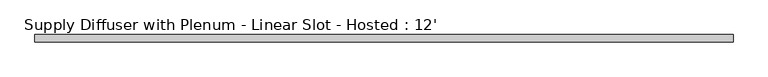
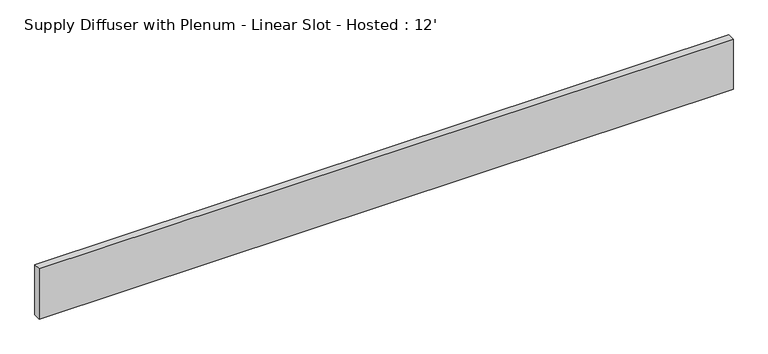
"""IFC4 building model written with IfcOpenShell, lengths in millimetres: air terminal geometry, Supply Diffuser with Plenum - Linear Slot - Hosted : 12'."""

from ifc_helpers import new_model, si_unit, frame, origin, place, context, project, spatial, polyline, outline, extrude, source, transform, mapped, element, save


def supply_diffuser_with_plenum_linear_slot_hosted_12_d1458841(model_context):
    return source(origin(), model_context, "Body", "SweptSolid", [
        extrude(outline(polyline([(1828.8, 19.05), (1828.8, -19.05), (-1828.8, -19.05), (-1828.8, 19.05), (1828.8, 19.05)])), frame((0.0, 0.0, -279.4), z_axis=(0.0, 0.0, 1.0), x_axis=(1.0, 0.0, 0.0)), (0.0, 0.0, 1.0), 279.4),
    ])


if __name__ == "__main__":
    model = new_model("IFC4")
    model_context = context("Model", 3, world=origin())
    ifc_project = project(units=[si_unit("LENGTHUNIT", "METRE", prefix="MILLI")], contexts=[model_context])
    site = spatial("IfcSite", under=ifc_project)
    building = spatial("IfcBuilding", under=site)
    placement = place(None, origin())
    supply_diffuser_with_plenum_linear_slot_hosted_12_shape = supply_diffuser_with_plenum_linear_slot_hosted_12_d1458841(model_context)
    element("IfcAirTerminal", 1, ObjectType="Supply Diffuser with Plenum - Linear Slot - Hosted : 12'", at=placement, inside=building, context=model_context, shape_type="MappedRepresentation", body=[
        mapped(supply_diffuser_with_plenum_linear_slot_hosted_12_shape, transform((0.0, 0.0, 0.0), x_axis=(1.0, 0.0, 0.0), y_axis=(0.0, 1.0, 0.0), z_axis=(0.0, 0.0, 1.0))),
    ])
    save(model, "model.ifc")
